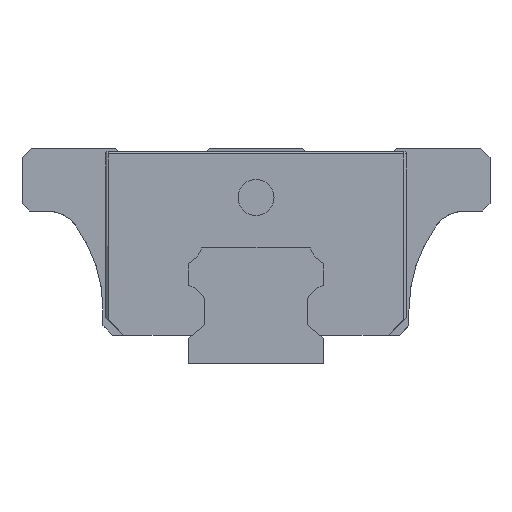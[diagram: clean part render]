
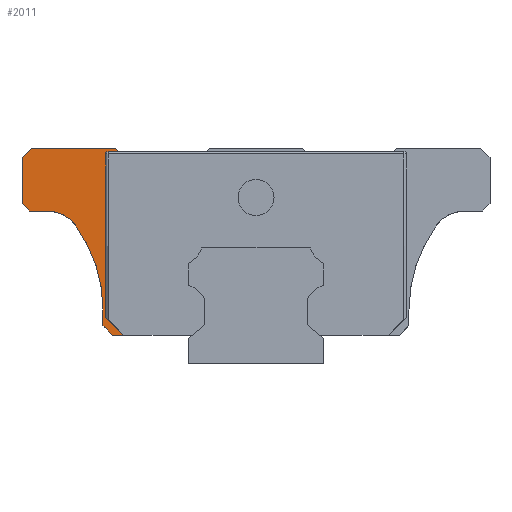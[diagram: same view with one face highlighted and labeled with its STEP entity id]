
A CAD part, left-side view. The second image highlights one B-rep face of the part: STEP entity #2011.
In plain terms, the highlighted planar face has unit normal (-1, 0, 0).
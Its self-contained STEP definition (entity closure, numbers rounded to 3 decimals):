
#57 = CIRCLE ( 'NONE', #4067, 16. ) ;
#58 = CARTESIAN_POINT ( 'NONE',  ( -11.45, 23.253, 13. ) ) ;
#89 = VERTEX_POINT ( 'NONE', #5653 ) ;
#149 = ORIENTED_EDGE ( 'NONE', *, *, #3748, .T. ) ;
#202 = DIRECTION ( 'NONE',  ( -1., 0., 0. ) ) ;
#234 = EDGE_LOOP ( 'NONE', ( #5933, #5963, #2629, #1572, #149, #3153, #2070, #3056, #6042, #3630, #4118, #3100, #1105, #4217, #6618 ) ) ;
#384 = CARTESIAN_POINT ( 'NONE',  ( -11.45, 17., 6. ) ) ;
#406 = VERTEX_POINT ( 'NONE', #2205 ) ;
#457 = VERTEX_POINT ( 'NONE', #4995 ) ;
#465 = DIRECTION ( 'NONE',  ( 0., 0., 1. ) ) ;
#747 = EDGE_CURVE ( 'NONE', #89, #5619, #3635, .T. ) ;
#780 = VECTOR ( 'NONE', #2896, 1000. ) ;
#833 = CARTESIAN_POINT ( 'NONE',  ( -11.45, 14.702, 3.2 ) ) ;
#847 = AXIS2_PLACEMENT_3D ( 'NONE', #6265, #202, #3612 ) ;
#985 = CARTESIAN_POINT ( 'NONE',  ( -11.45, 16.702, 5.2 ) ) ;
#996 = EDGE_CURVE ( 'NONE', #6400, #6870, #1899, .T. ) ;
#1105 = ORIENTED_EDGE ( 'NONE', *, *, #1386, .F. ) ;
#1305 = CARTESIAN_POINT ( 'NONE',  ( -11.45, 15.6, 24. ) ) ;
#1319 = EDGE_CURVE ( 'NONE', #6870, #4403, #6216, .T. ) ;
#1386 = EDGE_CURVE ( 'NONE', #406, #5619, #4979, .T. ) ;
#1499 = DIRECTION ( 'NONE',  ( 0., 0., 1. ) ) ;
#1525 = VERTEX_POINT ( 'NONE', #2933 ) ;
#1572 = ORIENTED_EDGE ( 'NONE', *, *, #4047, .T. ) ;
#1632 = VECTOR ( 'NONE', #7031, 1000. ) ;
#1708 = CARTESIAN_POINT ( 'NONE',  ( -11.45, 16.702, 5.2 ) ) ;
#1862 = FACE_OUTER_BOUND ( 'NONE', #234, .T. ) ;
#1899 = LINE ( 'NONE', #4761, #5054 ) ;
#1909 = CARTESIAN_POINT ( 'NONE',  ( -11.45, 25.2, 17. ) ) ;
#1949 = VECTOR ( 'NONE', #4303, 1000. ) ;
#2011 = ADVANCED_FACE ( 'NONE', ( #1862 ), #3013, .T. ) ;
#2070 = ORIENTED_EDGE ( 'NONE', *, *, #6722, .T. ) ;
#2125 = DIRECTION ( 'NONE',  ( 1., 0., 0. ) ) ;
#2164 = CARTESIAN_POINT ( 'NONE',  ( -11.45, -18.027, 23.595 ) ) ;
#2192 = EDGE_CURVE ( 'NONE', #89, #4078, #6367, .T. ) ;
#2205 = CARTESIAN_POINT ( 'NONE',  ( -11.45, 15.26, 23.595 ) ) ;
#2259 = VECTOR ( 'NONE', #5264, 1000. ) ;
#2308 = DIRECTION ( 'NONE',  ( 1., 0., 0. ) ) ;
#2316 = VERTEX_POINT ( 'NONE', #833 ) ;
#2318 = CARTESIAN_POINT ( 'NONE',  ( -11.45, 17.674, 3.2 ) ) ;
#2566 = VECTOR ( 'NONE', #5174, 1000. ) ;
#2612 = VECTOR ( 'NONE', #3992, 1000. ) ;
#2629 = ORIENTED_EDGE ( 'NONE', *, *, #7160, .T. ) ;
#2896 = DIRECTION ( 'NONE',  ( 0., -1., 0. ) ) ;
#2914 = AXIS2_PLACEMENT_3D ( 'NONE', #3173, #7078, #465 ) ;
#2916 = DIRECTION ( 'NONE',  ( 0., -1., 0. ) ) ;
#2933 = CARTESIAN_POINT ( 'NONE',  ( -11.45, 20.004, 15.333 ) ) ;
#3013 = PLANE ( 'NONE',  #847 ) ;
#3016 = VERTEX_POINT ( 'NONE', #4245 ) ;
#3056 = ORIENTED_EDGE ( 'NONE', *, *, #4635, .T. ) ;
#3100 = ORIENTED_EDGE ( 'NONE', *, *, #747, .T. ) ;
#3153 = ORIENTED_EDGE ( 'NONE', *, *, #4312, .T. ) ;
#3154 = DIRECTION ( 'NONE',  ( 0., 1., 0. ) ) ;
#3173 = CARTESIAN_POINT ( 'NONE',  ( -11.45, 16.442, 23.335 ) ) ;
#3551 = LINE ( 'NONE', #2318, #7269 ) ;
#3566 = LINE ( 'NONE', #5818, #2259 ) ;
#3612 = DIRECTION ( 'NONE',  ( 0., 0., 1. ) ) ;
#3630 = ORIENTED_EDGE ( 'NONE', *, *, #4411, .F. ) ;
#3635 = CIRCLE ( 'NONE', #2914, 0.26 ) ;
#3713 = LINE ( 'NONE', #4259, #1632 ) ;
#3748 = EDGE_CURVE ( 'NONE', #3924, #1525, #4077, .T. ) ;
#3760 = CARTESIAN_POINT ( 'NONE',  ( -11.45, 23.253, 17. ) ) ;
#3787 = CARTESIAN_POINT ( 'NONE',  ( -11.45, 26., 17.8 ) ) ;
#3817 = VERTEX_POINT ( 'NONE', #1909 ) ;
#3824 = CARTESIAN_POINT ( 'NONE',  ( -11.45, 26., 24. ) ) ;
#3924 = VERTEX_POINT ( 'NONE', #3760 ) ;
#3992 = DIRECTION ( 'NONE',  ( 0., 0., -1. ) ) ;
#4047 = EDGE_CURVE ( 'NONE', #3817, #3924, #5195, .T. ) ;
#4067 = AXIS2_PLACEMENT_3D ( 'NONE', #4868, #2125, #1499 ) ;
#4077 = CIRCLE ( 'NONE', #5400, 4. ) ;
#4078 = VERTEX_POINT ( 'NONE', #1708 ) ;
#4118 = ORIENTED_EDGE ( 'NONE', *, *, #2192, .F. ) ;
#4191 = CARTESIAN_POINT ( 'NONE',  ( -11.45, 24.95, 24. ) ) ;
#4217 = ORIENTED_EDGE ( 'NONE', *, *, #4299, .T. ) ;
#4245 = CARTESIAN_POINT ( 'NONE',  ( -11.45, 15.6, 24. ) ) ;
#4259 = CARTESIAN_POINT ( 'NONE',  ( -11.45, 17., 6. ) ) ;
#4299 = EDGE_CURVE ( 'NONE', #406, #3016, #5463, .T. ) ;
#4303 = DIRECTION ( 'NONE',  ( 0., 0.643, 0.766 ) ) ;
#4312 = EDGE_CURVE ( 'NONE', #1525, #5596, #57, .T. ) ;
#4372 = CARTESIAN_POINT ( 'NONE',  ( -11.45, 26., 22.95 ) ) ;
#4382 = DIRECTION ( 'NONE',  ( 0., 0., -1. ) ) ;
#4403 = VERTEX_POINT ( 'NONE', #3787 ) ;
#4411 = EDGE_CURVE ( 'NONE', #4078, #2316, #6046, .T. ) ;
#4447 = VERTEX_POINT ( 'NONE', #4591 ) ;
#4591 = CARTESIAN_POINT ( 'NONE',  ( -11.45, 17., 4.25 ) ) ;
#4599 = CARTESIAN_POINT ( 'NONE',  ( -11.45, 25.2, 17. ) ) ;
#4635 = EDGE_CURVE ( 'NONE', #4447, #457, #3566, .T. ) ;
#4761 = CARTESIAN_POINT ( 'NONE',  ( -11.45, 24.95, 24. ) ) ;
#4868 = CARTESIAN_POINT ( 'NONE',  ( -11.45, 33., 6. ) ) ;
#4979 = LINE ( 'NONE', #2164, #5808 ) ;
#4995 = CARTESIAN_POINT ( 'NONE',  ( -11.45, 15.95, 3.2 ) ) ;
#5025 = VECTOR ( 'NONE', #5534, 1000. ) ;
#5054 = VECTOR ( 'NONE', #6376, 1000. ) ;
#5174 = DIRECTION ( 'NONE',  ( 0., -0.707, -0.707 ) ) ;
#5195 = LINE ( 'NONE', #4599, #780 ) ;
#5210 = LINE ( 'NONE', #6352, #2566 ) ;
#5264 = DIRECTION ( 'NONE',  ( 0., -0.707, -0.707 ) ) ;
#5400 = AXIS2_PLACEMENT_3D ( 'NONE', #58, #2308, #6304 ) ;
#5463 = LINE ( 'NONE', #7178, #1949 ) ;
#5489 = EDGE_CURVE ( 'NONE', #3016, #6400, #7095, .T. ) ;
#5534 = DIRECTION ( 'NONE',  ( 0., -0.707, -0.707 ) ) ;
#5572 = VECTOR ( 'NONE', #3154, 1000. ) ;
#5596 = VERTEX_POINT ( 'NONE', #384 ) ;
#5619 = VERTEX_POINT ( 'NONE', #5999 ) ;
#5653 = CARTESIAN_POINT ( 'NONE',  ( -11.45, 16.702, 23.335 ) ) ;
#5808 = VECTOR ( 'NONE', #6666, 1000. ) ;
#5818 = CARTESIAN_POINT ( 'NONE',  ( -11.45, 17., 4.25 ) ) ;
#5933 = ORIENTED_EDGE ( 'NONE', *, *, #996, .T. ) ;
#5963 = ORIENTED_EDGE ( 'NONE', *, *, #1319, .T. ) ;
#5999 = CARTESIAN_POINT ( 'NONE',  ( -11.45, 16.442, 23.595 ) ) ;
#6042 = ORIENTED_EDGE ( 'NONE', *, *, #6952, .T. ) ;
#6046 = LINE ( 'NONE', #985, #5025 ) ;
#6214 = CARTESIAN_POINT ( 'NONE',  ( -11.45, 16.702, 23.125 ) ) ;
#6216 = LINE ( 'NONE', #3824, #6859 ) ;
#6265 = CARTESIAN_POINT ( 'NONE',  ( -11.45, -6.587, 3.2 ) ) ;
#6304 = DIRECTION ( 'NONE',  ( 0., 0., 1. ) ) ;
#6352 = CARTESIAN_POINT ( 'NONE',  ( -11.45, 26., 17.8 ) ) ;
#6367 = LINE ( 'NONE', #6214, #2612 ) ;
#6376 = DIRECTION ( 'NONE',  ( 0., 0.707, -0.707 ) ) ;
#6400 = VERTEX_POINT ( 'NONE', #4191 ) ;
#6618 = ORIENTED_EDGE ( 'NONE', *, *, #5489, .T. ) ;
#6666 = DIRECTION ( 'NONE',  ( 0., 1., 0. ) ) ;
#6722 = EDGE_CURVE ( 'NONE', #5596, #4447, #3713, .T. ) ;
#6859 = VECTOR ( 'NONE', #4382, 1000. ) ;
#6870 = VERTEX_POINT ( 'NONE', #4372 ) ;
#6952 = EDGE_CURVE ( 'NONE', #457, #2316, #3551, .T. ) ;
#7031 = DIRECTION ( 'NONE',  ( 0., 0., -1. ) ) ;
#7078 = DIRECTION ( 'NONE',  ( 1., 0., 0. ) ) ;
#7095 = LINE ( 'NONE', #1305, #5572 ) ;
#7160 = EDGE_CURVE ( 'NONE', #4403, #3817, #5210, .T. ) ;
#7178 = CARTESIAN_POINT ( 'NONE',  ( -11.45, 15.233, 23.563 ) ) ;
#7269 = VECTOR ( 'NONE', #2916, 1000. ) ;
